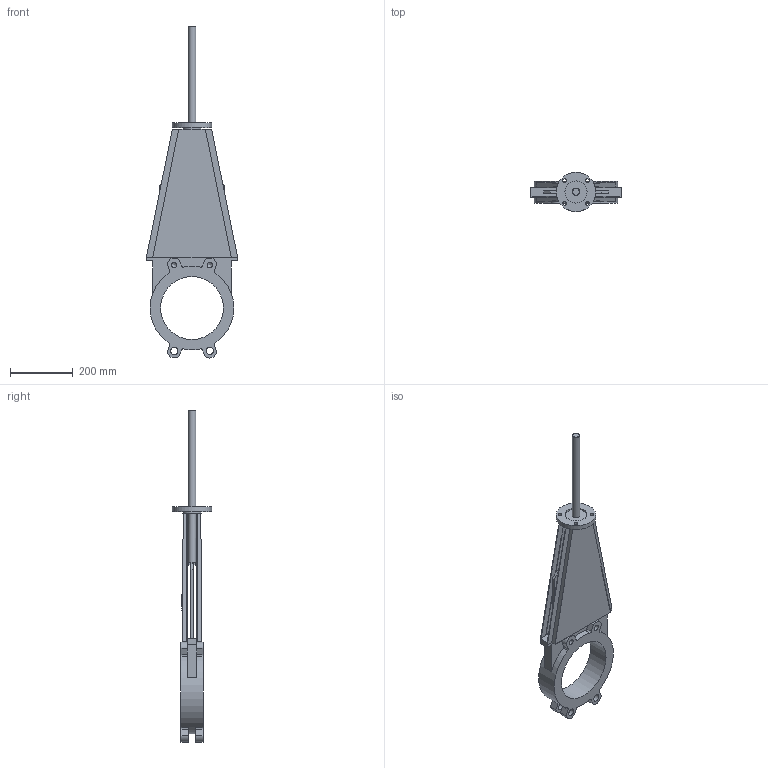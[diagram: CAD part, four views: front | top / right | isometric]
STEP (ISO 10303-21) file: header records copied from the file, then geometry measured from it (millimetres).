
FILE_DESCRIPTION(('STEP AP203'), '1');
FILE_NAME('K21GVA_DN200', '', ('UNSPECIFIED'), ('UNSPECIFIED'), 'ASCON STEP Converter 1.6', 'ASCON Math Kernel', '');
FILE_SCHEMA(('CONFIG_CONTROL_DESIGN'));
Length unit declared in the file: millimetre
Bounding box: 290 x 125 x 1054.81 mm (x, y, z)
Volume: 3526461 mm3; surface area: 778206.5 mm2
Topology: 1 solids, 1 shells, 157 faces, 440 edges, 285 vertices
Faces by surface type: plane 100, cylinder 52, cone 5
Full cylindrical faces by diameter (mm): 12 x4, 17.294 x4, 23 x4, 24 x2, 60 x1, 70 x1, 125 x1, 200 x1
Entity records: 6240 total; most frequent: DIRECTION 858, CARTESIAN_POINT 852, ORIENTED_EDGE 826, EDGE_CURVE 413, AXIS2_PLACEMENT_3D 287, LINE 284, VECTOR 284, VERTEX_POINT 281
